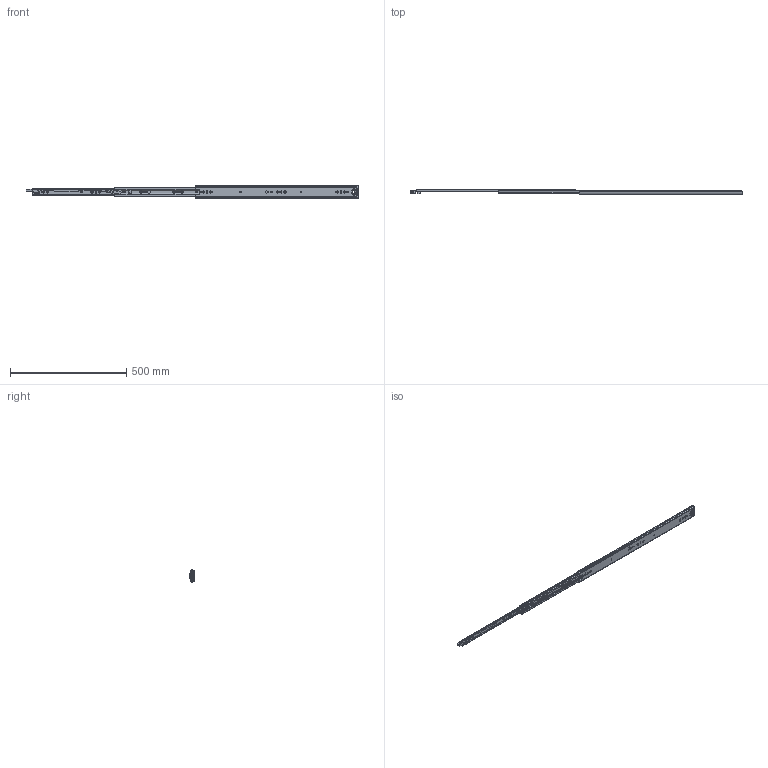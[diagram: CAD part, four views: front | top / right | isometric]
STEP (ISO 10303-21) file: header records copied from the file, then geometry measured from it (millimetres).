
FILE_DESCRIPTION((''),'2;1');
FILE_NAME('1053-3S-28YOU_ASM','2023-04-12T',('jishu015'),(''),'PRO/ENGINEER BY PARAMETRIC TECHNOLOGY CORPORATION, 2010280','PRO/ENGINEER BY PARAMETRIC TECHNOLOGY CORPORATION, 2010280','');
FILE_SCHEMA(('CONFIG_CONTROL_DESIGN'));
Products named in the file (20): 1053-02-18WAIKE_________; 1053WEIJIAO_________; 1053-3S-24WAIKE__________ASM; 1053ZHUTIAO-175_________; 53-5-6GANZHU_________; 1053ZHUTIAO-175MM__________ASM; 1053-02-18ZHONGGUI_________; ZHONGGUIPEIJIAN_______; ZHONGGUISUOKOU_______; 1053-02-18ZHONGGUI__________ASM; 1053XIAOZHUJIA-14GE_________; 1053XIAOZHUJIA-14GE__________ASM; 1053-02-18NEIGUI_________; DAOPIAN_____; PIAN_____; 1053-3SBANJI123____; JIAO-11____; 50XINSUOKOU11___; 1053-02-18NEIGUI__________ASM; 1053-3S-28YOU_ASM
Assembly tree (79 placements, depth 3):
  1053-3S-28YOU_ASM
    1053-3S-24WAIKE__________ASM
      1053-02-18WAIKE_________
      1053WEIJIAO_________
    1053ZHUTIAO-175MM__________ASM  x2
      1053ZHUTIAO-175_________
      53-5-6GANZHU_________
    1053-02-18ZHONGGUI__________ASM
      1053-02-18ZHONGGUI_________
      ZHONGGUIPEIJIAN_______
      ZHONGGUISUOKOU_______
    1053XIAOZHUJIA-14GE__________ASM
      1053XIAOZHUJIA-14GE_________
      53-5-6GANZHU_________  x48
    1053-02-18NEIGUI__________ASM
      1053-02-18NEIGUI_________
      DAOPIAN_____
      PIAN_____
      1053-3SBANJI123____
      JIAO-11____
      50XINSUOKOU11___
Bounding box: 1426.92 x 18.7 x 53 mm (x, y, z)
Volume: 266663.6 mm3; surface area: 308076.5 mm2
Topology: 87 solids, 87 shells, 2263 faces, 6532 edges, 4084 vertices
Faces by surface type: cylinder 972, plane 925, sphere 152, bspline 105, cone 70, extrusion 23, torus 16
Entity records: 73682 total; most frequent: CARTESIAN_POINT 18567, ORIENTED_EDGE 11702, DIRECTION 11304, EDGE_CURVE 5851, AXIS2_PLACEMENT_3D 3905, VERTEX_POINT 3781, VECTOR 3494, LINE 3471
